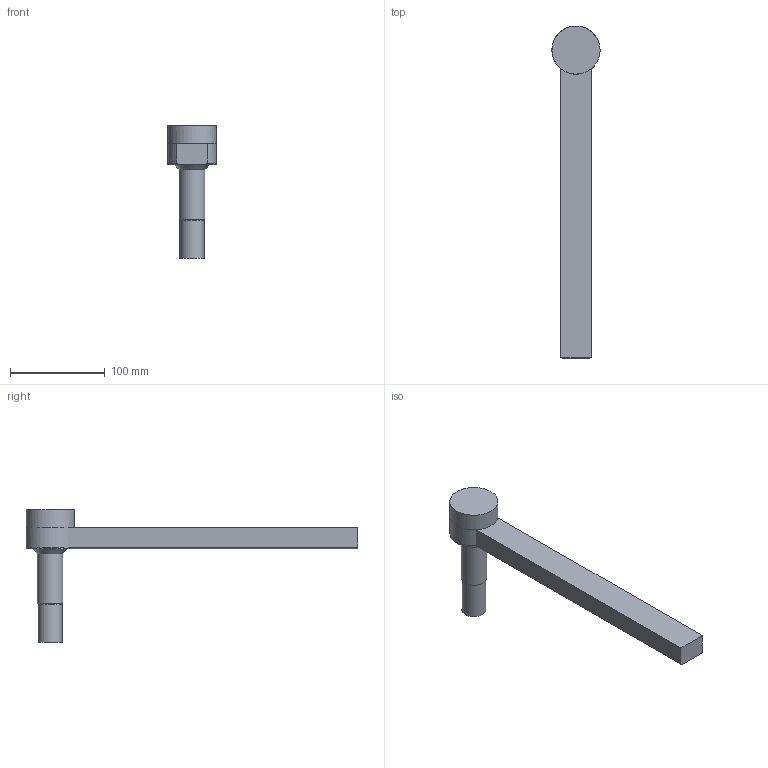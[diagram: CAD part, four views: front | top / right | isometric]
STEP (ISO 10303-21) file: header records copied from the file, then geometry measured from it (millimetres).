
FILE_DESCRIPTION(/* description */ (''),/* implementation_level */ '2;1');
FILE_NAME(/* name */ 'B0671TRUPas.stp',/* time_stamp */ '2019-10-03T08:12:32-04:00',/* author */ (''),/* organization */ (''),/* preprocessor_version */ 'ST-DEVELOPER v16',/* originating_system */ 'SIEMENS PLM Software NX 11.0',/* authorisation */ '');
FILE_SCHEMA (('AUTOMOTIVE_DESIGN { 1 0 10303 214 3 1 1 1 }'));
Length unit declared in the file: inch
Products named in the file (3): B0671TRUPd; B06XX_SubSolid; B0671TRUPas
Assembly tree (2 placements, depth 2):
  B0671TRUPas
    B06XX_SubSolid
    B0671TRUPd
Bounding box: 50.91 x 350.87 x 140.49 mm (x, y, z)
Volume: 437212.3 mm3; surface area: 69741.9 mm2
Topology: 2 solids, 3 shells, 34 faces, 72 edges, 45 vertices
Faces by surface type: plane 13, cylinder 10, cone 6, torus 3, sphere 1, revolution 1
Full cylindrical faces by diameter (mm): 8.731 x2, 25.4 x2, 26.987 x1, 50.927 x1
Entity records: 874 total; most frequent: CARTESIAN_POINT 167, DIRECTION 142, ORIENTED_EDGE 96, AXIS2_PLACEMENT_3D 62, EDGE_LOOP 54, EDGE_CURVE 48, FACE_BOUND 45, VERTEX_POINT 40
